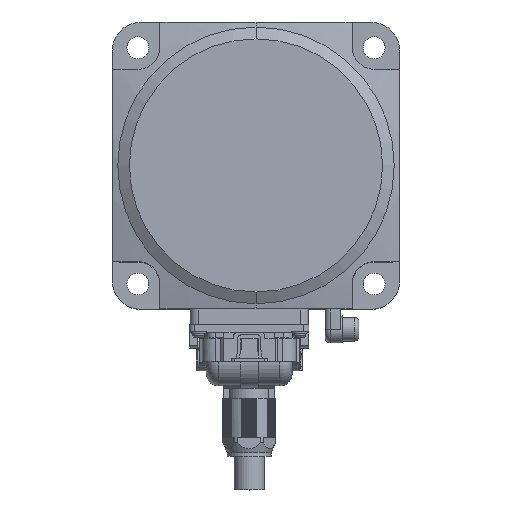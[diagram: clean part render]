
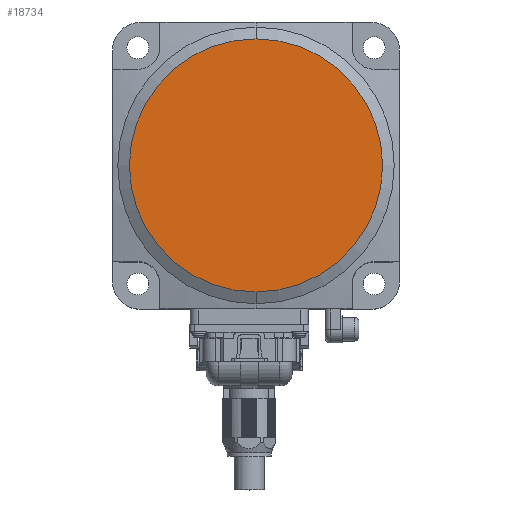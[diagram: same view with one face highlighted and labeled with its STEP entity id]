
A CAD part, top view. The second image highlights one B-rep face of the part: STEP entity #18734.
In plain terms, the highlighted planar face has unit normal (0, 0, 1).
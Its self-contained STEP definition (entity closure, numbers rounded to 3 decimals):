
#385 = CIRCLE ( 'NONE', #4906, 37.5 ) ;
#3007 = FACE_OUTER_BOUND ( 'NONE', #11217, .T. ) ;
#3089 = DIRECTION ( 'NONE',  ( 0., 0., -1. ) ) ;
#3504 = EDGE_CURVE ( 'NONE', #14574, #9509, #385, .T. ) ;
#4010 = ORIENTED_EDGE ( 'NONE', *, *, #3504, .F. ) ;
#4499 = CARTESIAN_POINT ( 'NONE',  ( 0., 0., 84. ) ) ;
#4806 = DIRECTION ( 'NONE',  ( 0., 0., -1. ) ) ;
#4854 = CIRCLE ( 'NONE', #14830, 37.5 ) ;
#4906 = AXIS2_PLACEMENT_3D ( 'NONE', #7281, #14479, #11649 ) ;
#6313 = DIRECTION ( 'NONE',  ( 0., 1., 0. ) ) ;
#7281 = CARTESIAN_POINT ( 'NONE',  ( 0., 0., 84. ) ) ;
#8776 = PLANE ( 'NONE',  #17309 ) ;
#9064 = ORIENTED_EDGE ( 'NONE', *, *, #9504, .F. ) ;
#9504 = EDGE_CURVE ( 'NONE', #9509, #14574, #4854, .T. ) ;
#9509 = VERTEX_POINT ( 'NONE', #10556 ) ;
#10273 = DIRECTION ( 'NONE',  ( 0., 1., 0. ) ) ;
#10556 = CARTESIAN_POINT ( 'NONE',  ( 0., -37.5, 84. ) ) ;
#11217 = EDGE_LOOP ( 'NONE', ( #4010, #9064 ) ) ;
#11649 = DIRECTION ( 'NONE',  ( 0., 1., 0. ) ) ;
#14152 = CARTESIAN_POINT ( 'NONE',  ( 0., 37.5, 84. ) ) ;
#14479 = DIRECTION ( 'NONE',  ( 0., 0., -1. ) ) ;
#14563 = CARTESIAN_POINT ( 'NONE',  ( 42.5, -42.5, 84. ) ) ;
#14574 = VERTEX_POINT ( 'NONE', #14152 ) ;
#14830 = AXIS2_PLACEMENT_3D ( 'NONE', #4499, #3089, #10273 ) ;
#17309 = AXIS2_PLACEMENT_3D ( 'NONE', #14563, #4806, #6313 ) ;
#18734 = ADVANCED_FACE ( 'NONE', ( #3007 ), #8776, .F. ) ;
